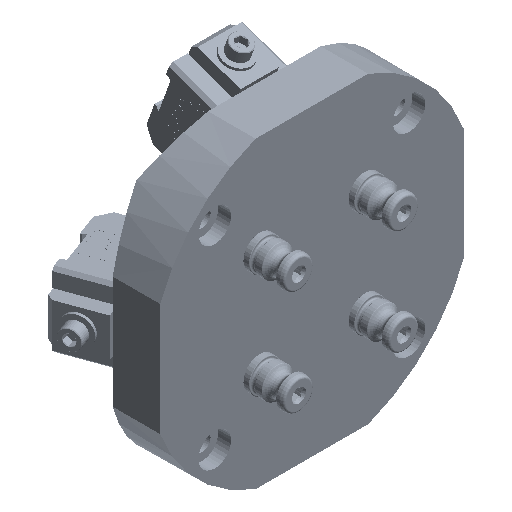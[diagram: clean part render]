
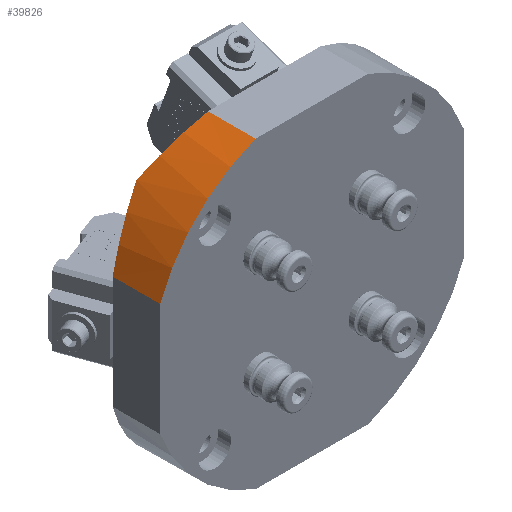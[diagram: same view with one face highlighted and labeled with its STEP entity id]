
A CAD part, isometric view. The second image highlights one B-rep face of the part: STEP entity #39826.
In plain terms, the highlighted cylindrical face has radius 80 mm (diameter 160 mm), a partial arc.
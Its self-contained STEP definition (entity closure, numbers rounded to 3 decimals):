
#2217 = AXIS2_PLACEMENT_3D ( 'NONE', #36759, #6297, #41867 ) ;
#4027 = CARTESIAN_POINT ( 'NONE',  ( -75., 31.189, 27.839 ) ) ;
#6280 = LINE ( 'NONE', #4027, #58716 ) ;
#6297 = DIRECTION ( 'NONE',  ( 0., -1., 0. ) ) ;
#6991 = CARTESIAN_POINT ( 'NONE',  ( -27.839, 31.189, 75. ) ) ;
#7852 = EDGE_CURVE ( 'NONE', #51899, #42264, #30393, .T. ) ;
#9215 =( BOUNDED_CURVE ( )  B_SPLINE_CURVE ( 3, ( #58793, #53725, #48442, #28453 ),
 .UNSPECIFIED., .F., .T. ) 
 B_SPLINE_CURVE_WITH_KNOTS ( ( 4, 4 ),
 ( 0.355, 0.785 ),
 .UNSPECIFIED. ) 
 CURVE ( )  GEOMETRIC_REPRESENTATION_ITEM ( )  RATIONAL_B_SPLINE_CURVE ( ( 1., 0.985, 0.985, 1. ) ) 
 REPRESENTATION_ITEM ( '' )  );
#9645 = CIRCLE ( 'NONE', #2217, 80. ) ;
#13356 = CARTESIAN_POINT ( 'NONE',  ( -48.398, 27.237, 64.739 ) ) ;
#15275 = CARTESIAN_POINT ( 'NONE',  ( -75., 0., 27.839 ) ) ;
#23776 = CARTESIAN_POINT ( 'NONE',  ( -75., 23.502, 27.839 ) ) ;
#25028 = VERTEX_POINT ( 'NONE', #15275 ) ;
#25445 = CYLINDRICAL_SURFACE ( 'NONE', #31581, 80. ) ;
#25663 = ORIENTED_EDGE ( 'NONE', *, *, #7852, .F. ) ;
#26309 = EDGE_CURVE ( 'NONE', #35022, #53407, #9215, .T. ) ;
#27058 = FACE_OUTER_BOUND ( 'NONE', #46984, .T. ) ;
#28453 = CARTESIAN_POINT ( 'NONE',  ( -56.569, 30.211, 56.569 ) ) ;
#30393 = LINE ( 'NONE', #6991, #45506 ) ;
#31581 = AXIS2_PLACEMENT_3D ( 'NONE', #36128, #36339, #41239 ) ;
#33766 = CARTESIAN_POINT ( 'NONE',  ( -27.839, 23.502, 75. ) ) ;
#35022 = VERTEX_POINT ( 'NONE', #23776 ) ;
#35315 =( BOUNDED_CURVE ( )  B_SPLINE_CURVE ( 3, ( #43774, #13356, #64144, #33766 ),
 .UNSPECIFIED., .F., .T. ) 
 B_SPLINE_CURVE_WITH_KNOTS ( ( 4, 4 ),
 ( 5.498, 5.928 ),
 .UNSPECIFIED. ) 
 CURVE ( )  GEOMETRIC_REPRESENTATION_ITEM ( )  RATIONAL_B_SPLINE_CURVE ( ( 1., 0.985, 0.985, 1. ) ) 
 REPRESENTATION_ITEM ( '' )  );
#36128 = CARTESIAN_POINT ( 'NONE',  ( 0., 31.189, 0. ) ) ;
#36339 = DIRECTION ( 'NONE',  ( 0., -1., 0. ) ) ;
#36759 = CARTESIAN_POINT ( 'NONE',  ( 0., 0., 0. ) ) ;
#39826 = ADVANCED_FACE ( 'NONE', ( #27058 ), #25445, .T. ) ;
#41026 = ORIENTED_EDGE ( 'NONE', *, *, #45505, .T. ) ;
#41239 = DIRECTION ( 'NONE',  ( 0., 0., -1. ) ) ;
#41867 = DIRECTION ( 'NONE',  ( 0., 0., -1. ) ) ;
#42264 = VERTEX_POINT ( 'NONE', #64931 ) ;
#42565 = CARTESIAN_POINT ( 'NONE',  ( -56.569, 30.211, 56.569 ) ) ;
#42567 = DIRECTION ( 'NONE',  ( 0., -1., 0. ) ) ;
#42645 = EDGE_CURVE ( 'NONE', #53407, #51899, #35315, .T. ) ;
#43774 = CARTESIAN_POINT ( 'NONE',  ( -56.569, 30.211, 56.569 ) ) ;
#44420 = ORIENTED_EDGE ( 'NONE', *, *, #42645, .F. ) ;
#45505 = EDGE_CURVE ( 'NONE', #35022, #25028, #6280, .T. ) ;
#45506 = VECTOR ( 'NONE', #42567, 1000. ) ;
#46984 = EDGE_LOOP ( 'NONE', ( #44420, #53344, #41026, #47966, #25663 ) ) ;
#47419 = CARTESIAN_POINT ( 'NONE',  ( -27.839, 23.502, 75. ) ) ;
#47966 = ORIENTED_EDGE ( 'NONE', *, *, #49409, .F. ) ;
#48442 = CARTESIAN_POINT ( 'NONE',  ( -64.739, 27.237, 48.398 ) ) ;
#49409 = EDGE_CURVE ( 'NONE', #42264, #25028, #9645, .T. ) ;
#51899 = VERTEX_POINT ( 'NONE', #47419 ) ;
#53344 = ORIENTED_EDGE ( 'NONE', *, *, #26309, .F. ) ;
#53407 = VERTEX_POINT ( 'NONE', #42565 ) ;
#53725 = CARTESIAN_POINT ( 'NONE',  ( -70.979, 24.966, 38.672 ) ) ;
#54907 = DIRECTION ( 'NONE',  ( 0., -1., 0. ) ) ;
#58716 = VECTOR ( 'NONE', #54907, 1000. ) ;
#58793 = CARTESIAN_POINT ( 'NONE',  ( -75., 23.502, 27.839 ) ) ;
#64144 = CARTESIAN_POINT ( 'NONE',  ( -38.672, 24.966, 70.979 ) ) ;
#64931 = CARTESIAN_POINT ( 'NONE',  ( -27.839, 0., 75. ) ) ;
